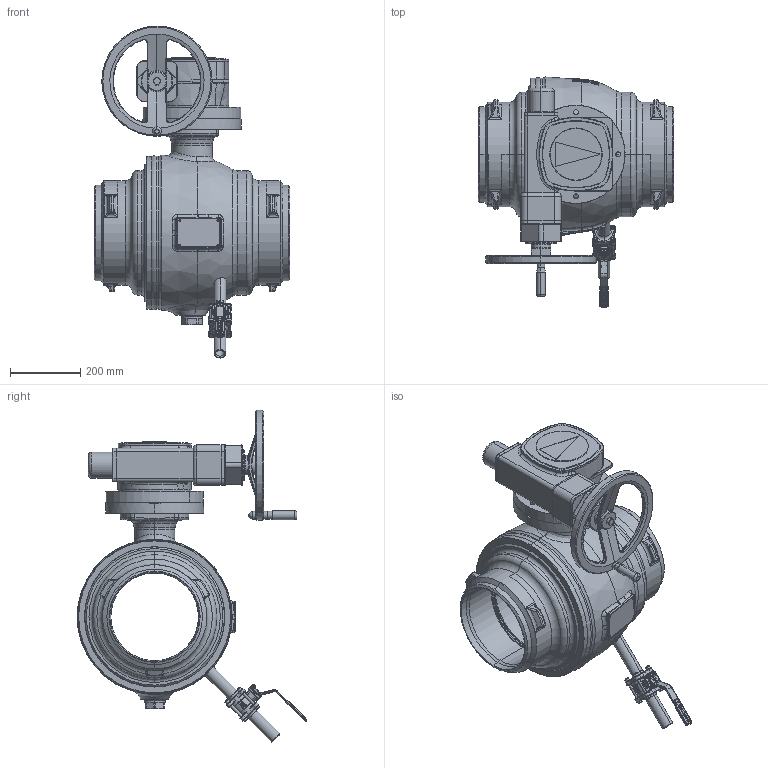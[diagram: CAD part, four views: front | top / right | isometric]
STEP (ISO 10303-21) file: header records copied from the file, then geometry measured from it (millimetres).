
FILE_DESCRIPTION((''),'2;1');
FILE_NAME('250_ASM','2017-01-16T',('schwaba'),('RAND'),'PRO/ENGINEER BY PARAMETRIC TECHNOLOGY CORPORATION, 2016100','PRO/ENGINEER BY PARAMETRIC TECHNOLOGY CORPORATION, 2016100','');
FILE_SCHEMA(('CONFIG_CONTROL_DESIGN'));
Products named in the file (3): KHSVI_250_VVSN_FR_WE_ENTL_O_IT; GS100_F16_AHR315_ZWPL_DN300; 250_ASM
Assembly tree (2 placements, depth 2):
  250_ASM
    KHSVI_250_VVSN_FR_WE_ENTL_O_IT
    GS100_F16_AHR315_ZWPL_DN300
Bounding box: 559 x 656.28 x 947.85 mm (x, y, z)
Volume: 31352732.7 mm3; surface area: 3656108.8 mm2
Topology: 3 solids, 11 shells, 4599 faces, 11694 edges, 7251 vertices
Faces by surface type: plane 2352, cylinder 824, torus 476, bspline 468, cone 359, sphere 120
Entity records: 214697 total; most frequent: CARTESIAN_POINT 105963, ORIENTED_EDGE 23276, DIRECTION 22312, EDGE_CURVE 11638, AXIS2_PLACEMENT_3D 8362, VERTEX_POINT 7251, VECTOR 5588, LINE 5588
